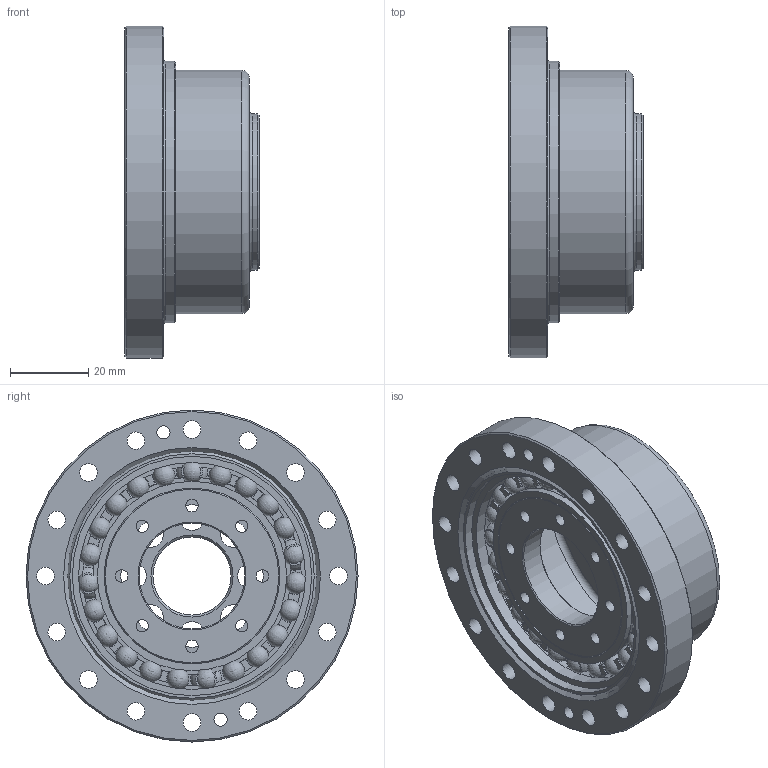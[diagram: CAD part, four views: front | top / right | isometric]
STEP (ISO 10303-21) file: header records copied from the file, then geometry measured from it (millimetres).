
FILE_DESCRIPTION(/* description */ (''),/* implementation_level */ '2;1');
FILE_NAME(/* name */ 'Getriebeset_CTG_63_HS.stp',/* time_stamp */ '2026-03-09T10:52:51+01:00',/* author */ (''),/* organization */ (''),/* preprocessor_version */ 'ST-DEVELOPER v19.4',/* originating_system */ 'SIEMENS PLM Software NX2212.9120',/* authorisation */ '');
FILE_SCHEMA (('AUTOMOTIVE_DESIGN { 1 0 10303 214 3 1 1 1 }'));
Length unit declared in the file: millimetre
Products named in the file (1): Getriebeset_CTG_63_HS
Bounding box: 34.4 x 85 x 85 mm (x, y, z)
Volume: 46859.2 mm3; surface area: 47335.8 mm2
Topology: 29 solids, 29 shells, 288 faces, 834 edges, 564 vertices
Faces by surface type: cylinder 93, plane 67, torus 46, cone 45, sphere 35, bspline 2
Full cylindrical faces by diameter (mm): 2.6 x2, 3.2 x8, 3.4 x2, 4.5 x16, 6.6 x8, 20 x1, 27 x1, 40 x1, 42 x1, 45 x2, 48.2 x1, 48.5 x2, 53.253 x1, 58.1 x2, 61.3 x2, 62.3 x1, 63 x1, 64 x1, 67 x1, 85 x1
Entity records: 11916 total; most frequent: CARTESIAN_POINT 5127, ORIENTED_EDGE 1272, DIRECTION 1262, EDGE_CURVE 636, AXIS2_PLACEMENT_3D 593, VERTEX_POINT 491, EDGE_LOOP 434, CIRCLE 306
